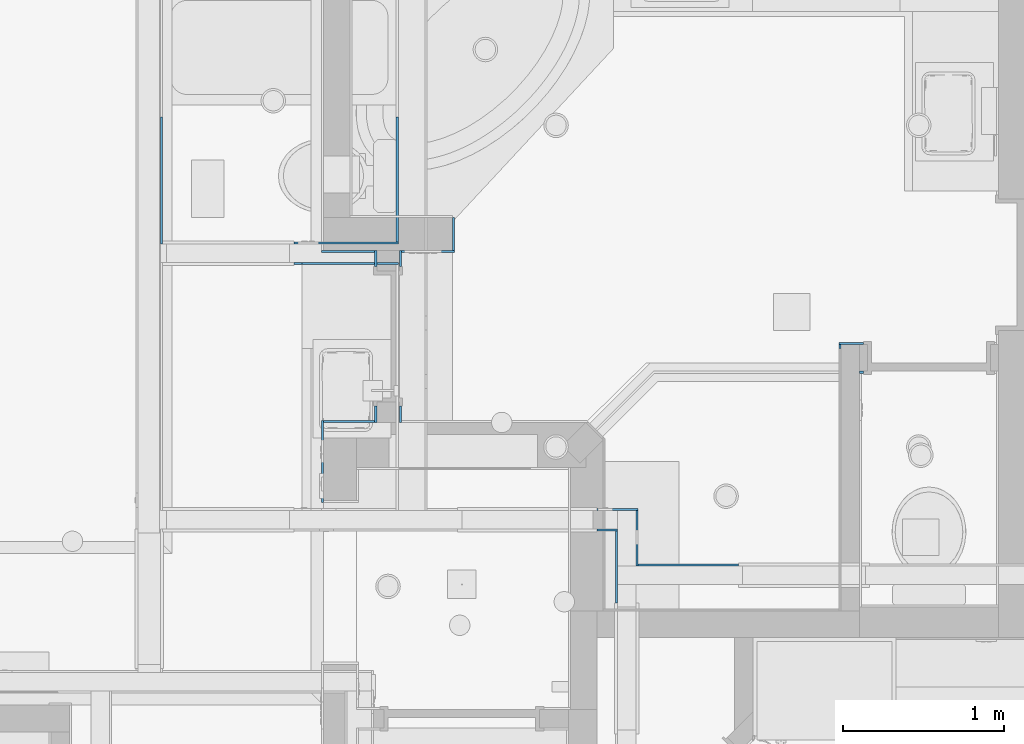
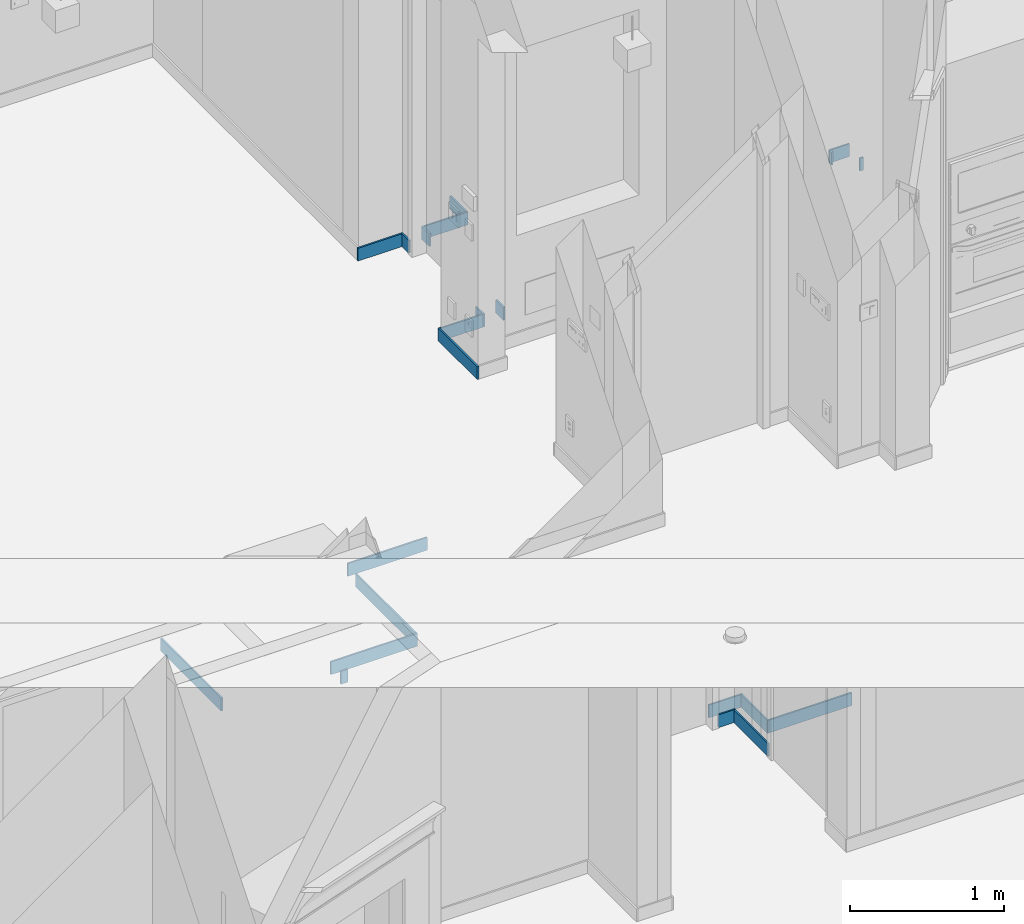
# One storey, part 22 of 60: 22 walls.
"""IFC2X3 building model written with IfcOpenShell, lengths in feet."""

from ifc_helpers import new_model, entity, si_unit, converted_unit, direction, frame, frame_2d, origin, place, context, subcontext, project, spatial, polyline, rectangle, extrude, clip, bounded_halfspace, material, layer, layer_set, layer_usage, type_object, element, save


model = new_model("IFC2X3")

# Units and contexts
model_context = context("Model", 3, precision=0.0001, world=origin(), true_north=direction((6.123031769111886e-17, 1.0)))
plan_context = context("Plan", 3, precision=0.0001, world=origin(), true_north=direction((6.123031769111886e-17, 1.0)))
body_context = subcontext(model_context, "Body", "Model", "MODEL_VIEW")
ifc_project = project(units=[converted_unit("LENGTHUNIT", "FOOT", entity("IfcLengthMeasure", 0.3048), si_unit("LENGTHUNIT", "METRE"), dimensions=[1, 0, 0, 0, 0, 0, 0]), converted_unit("AREAUNIT", "SQUARE FOOT", entity("IfcAreaMeasure", 0.09290304), si_unit("AREAUNIT", "SQUARE_METRE"), dimensions=[2, 0, 0, 0, 0, 0, 0]), converted_unit("PLANEANGLEUNIT", "DEGREE", entity("IfcPlaneAngleMeasure", 0.017453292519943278), si_unit("PLANEANGLEUNIT", "RADIAN"), dimensions=[0, 0, 0, 0, 0, 0, 0])], contexts=[model_context, plan_context])

# Site, building, storey
site_placement = place(None, origin())
site = spatial("IfcSite", under=ifc_project, at=site_placement, Name="Default", CompositionType="ELEMENT")
building_placement = place(site_placement, origin())
building = spatial("IfcBuilding", under=site, at=building_placement, CompositionType="ELEMENT")
storey_placement = place(building_placement, origin())
storey = spatial("IfcBuildingStorey", under=building, at=storey_placement, Name="First floor", CompositionType="ELEMENT", Elevation=0.0)

# Walls
ifc_material = material(Name="Default New Material")
ifc_layer = layer(ifc_material, 0.041666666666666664)
ifc_layer_set = layer_set([ifc_layer], Name="Basic Wall:Wall Border_T1")
ifc_layer_usage_1 = layer_usage(ifc_layer_set, "AXIS2", "POSITIVE", -0.020833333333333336)
wall_type = type_object("IfcWallType", Name="Basic Wall:Wall Border_T1", PredefinedType="STANDARD", material=ifc_layer_set)
wall_1_placement = place(storey_placement, frame((-4.812499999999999, 43.54166666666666, 0.0), z_axis=(0.0, 0.0, 1.0), x_axis=(0.0, -1.0, 0.0)))
element("IfcWallStandardCase", 1, at=wall_1_placement, inside=storey, type_object=wall_type, material=ifc_layer_usage_1, Name="Basic Wall:Wall Border_T1", ObjectType="Basic Wall:Wall Border_T1", context=body_context, shape_type="Clipping", body=[
    clip(extrude(rectangle(XDim=2.5416666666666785, YDim=0.041666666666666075, at=frame_2d((1.2708333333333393, -3.642919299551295e-17), x_axis=(-1.0, 0.0))), origin(), (0.0, 0.0, 1.0), 0.3333333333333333), bounded_halfspace(frame((2.5416666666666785, -0.02083333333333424, 0.3333333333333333), z_axis=(-1.0, 0.0, 0.0), x_axis=(0.0, -1.0, 0.0)), True, frame((2.5416666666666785, -0.02083333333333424, 0.3333333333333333), z_axis=(-1.0, 0.0, 0.0), x_axis=(0.0, -1.0, 0.0)), polyline([(0.0, 0.0), (-0.04166666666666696, 0.0), (-0.04166666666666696, -0.3333333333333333), (0.0, -0.3333333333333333), (0.0, 0.0)]))),
])
ifc_layer_usage_2 = layer_usage(ifc_layer_set, "AXIS2", "POSITIVE", -0.020833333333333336)
wall_2_placement = place(storey_placement, frame((-4.7916666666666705, 40.97916666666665, 0.0), z_axis=(0.0, 0.0, 1.0), x_axis=(-1.0, 0.0, 0.0)))
element("IfcWallStandardCase", 2, at=wall_2_placement, inside=storey, type_object=wall_type, material=ifc_layer_usage_2, Name="Basic Wall:Wall Border_T1", ObjectType="Basic Wall:Wall Border_T1", context=body_context, shape_type="SweptSolid", body=[
    extrude(rectangle(XDim=2.1250000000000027, YDim=0.041666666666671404, at=frame_2d((1.0625000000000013, 0.0), x_axis=(-1.0, 0.0))), origin(), (0.0, 0.0, 1.0), 0.3333333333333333),
])
ifc_layer_usage_3 = layer_usage(ifc_layer_set, "AXIS2", "NEGATIVE", 0.020833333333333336)
wall_3_placement = place(storey_placement, frame((-9.604166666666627, 40.95833333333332, 0.0), z_axis=(0.0, 0.0, 1.0), x_axis=(0.0, 1.0, 0.0)))
element("IfcWallStandardCase", 3, at=wall_3_placement, inside=storey, type_object=wall_type, material=ifc_layer_usage_3, Name="Basic Wall:Wall Border_T1", ObjectType="Basic Wall:Wall Border_T1", context=body_context, shape_type="SweptSolid", body=[
    extrude(rectangle(XDim=2.5833333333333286, YDim=0.04166666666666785, at=frame_2d((1.2916666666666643, 0.0), x_axis=(-1.0, 0.0))), origin(), (0.0, 0.0, 1.0), 0.3333333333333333),
])
ifc_layer_usage_4 = layer_usage(ifc_layer_set, "AXIS2", "POSITIVE", -0.020833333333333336)
wall_4_placement = place(storey_placement, frame((-6.916666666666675, 40.56249999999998, 0.0)))
element("IfcWallStandardCase", 4, at=wall_4_placement, inside=storey, type_object=wall_type, material=ifc_layer_usage_4, Name="Basic Wall:Wall Border_T1", ObjectType="Basic Wall:Wall Border_T1", context=body_context, shape_type="SweptSolid", body=[
    extrude(rectangle(XDim=0.1666666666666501, YDim=0.041666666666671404, at=frame_2d((0.08333333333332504, 0.0), x_axis=(-1.0, 0.0))), origin(), (0.0, 0.0, 1.0), 0.3333333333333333),
])
ifc_layer_usage_5 = layer_usage(ifc_layer_set, "AXIS2", "POSITIVE", -0.020833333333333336)
wall_5_placement = place(storey_placement, frame((2.124999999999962, 34.43749999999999, 0.0), z_axis=(0.0, 0.0, 1.0), x_axis=(-1.0, 0.0, 0.0)))
element("IfcWallStandardCase", 5, at=wall_5_placement, inside=storey, type_object=wall_type, material=ifc_layer_usage_5, Name="Basic Wall:Wall Border_T1", ObjectType="Basic Wall:Wall Border_T1", context=body_context, shape_type="Clipping", body=[
    clip(extrude(rectangle(XDim=2.0416666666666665, YDim=0.041666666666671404, at=frame_2d((1.0208333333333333, -7.112366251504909e-17), x_axis=(-1.0, 0.0))), origin(), (0.0, 0.0, 1.0), 0.3333333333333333), bounded_halfspace(frame((2.041666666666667, -0.020833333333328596, 0.3333333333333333), z_axis=(-1.0, 0.0, 0.0), x_axis=(0.0, -1.0, 0.0)), True, frame((2.041666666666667, -0.020833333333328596, 0.3333333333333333), z_axis=(-1.0, 0.0, 0.0), x_axis=(0.0, -1.0, 0.0)), polyline([(0.0, 0.0), (-0.0416666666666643, 0.0), (-0.0416666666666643, -0.3333333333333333), (0.0, -0.3333333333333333), (0.0, 0.0)]))),
])
ifc_layer_usage_6 = layer_usage(ifc_layer_set, "AXIS2", "POSITIVE", -0.020833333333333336)
wall_6_placement = place(storey_placement, frame((0.06249999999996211, 34.416666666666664, 0.0), z_axis=(0.0, 0.0, 1.0), x_axis=(0.0, 1.0, 0.0)))
element("IfcWallStandardCase", 6, at=wall_6_placement, inside=storey, type_object=wall_type, material=ifc_layer_usage_6, Name="Basic Wall:Wall Border_T1", ObjectType="Basic Wall:Wall Border_T1", context=body_context, shape_type="SweptSolid", body=[
    extrude(rectangle(XDim=1.1249999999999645, YDim=0.04166666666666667, at=frame_2d((0.5624999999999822, 0.0), x_axis=(-1.0, 0.0))), origin(), (0.0, 0.0, 1.0), 0.3333333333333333),
])
ifc_layer_usage_7 = layer_usage(ifc_layer_set, "AXIS2", "POSITIVE", -0.020833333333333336)
wall_7_placement = place(storey_placement, frame((0.08333333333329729, 35.562499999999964, 0.0), z_axis=(0.0, 0.0, 1.0), x_axis=(-1.0, 0.0, 0.0)))
element("IfcWallStandardCase", 7, at=wall_7_placement, inside=storey, type_object=wall_type, material=ifc_layer_usage_7, Name="Basic Wall:Wall Border_T1", ObjectType="Basic Wall:Wall Border_T1", context=body_context, shape_type="SweptSolid", body=[
    extrude(rectangle(XDim=0.8333333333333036, YDim=0.041666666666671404, at=frame_2d((0.4166666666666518, 0.0), x_axis=(-1.0, 0.0))), origin(), (0.0, 0.0, 1.0), 0.3333333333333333),
])
ifc_layer_usage_8 = layer_usage(ifc_layer_set, "AXIS2", "NEGATIVE", 0.020833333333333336)
wall_8_placement = place(storey_placement, frame((-0.7500000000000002, 35.14583333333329, 0.0)))
element("IfcWallStandardCase", 8, at=wall_8_placement, inside=storey, type_object=wall_type, material=ifc_layer_usage_8, Name="Basic Wall:Wall Border_T1", ObjectType="Basic Wall:Wall Border_T1", context=body_context, shape_type="SweptSolid", body=[
    extrude(rectangle(XDim=0.4166666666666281, YDim=0.041666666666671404, at=frame_2d((0.20833333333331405, 0.0), x_axis=(-1.0, 0.0))), origin(), (0.0, 0.0, 1.0), 0.3333333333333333),
])
ifc_layer_usage_9 = layer_usage(ifc_layer_set, "AXIS2", "NEGATIVE", 0.020833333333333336)
wall_9_placement = place(storey_placement, frame((-0.35416666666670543, 35.124999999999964, 0.0), z_axis=(0.0, 0.0, 1.0), x_axis=(0.0, -1.0, 0.0)))
element("IfcWallStandardCase", 9, at=wall_9_placement, inside=storey, type_object=wall_type, material=ifc_layer_usage_9, Name="Basic Wall:Wall Border_T1", ObjectType="Basic Wall:Wall Border_T1", context=body_context, shape_type="SweptSolid", body=[
    extrude(rectangle(XDim=1.4583333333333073, YDim=0.04166666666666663, at=frame_2d((0.7291666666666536, 0.0), x_axis=(-1.0, 0.0))), origin(), (0.0, 0.0, 1.0), 0.3333333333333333),
])
ifc_layer_usage_10 = layer_usage(ifc_layer_set, "AXIS2", "NEGATIVE", 0.020833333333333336)
wall_10_placement = place(storey_placement, frame((-5.249999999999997, 40.49965483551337, 10.666666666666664), z_axis=(0.0, 0.0, 1.0), x_axis=(0.0, 1.0, 0.0)))
element("IfcWallStandardCase", 10, at=wall_10_placement, inside=storey, type_object=wall_type, material=ifc_layer_usage_10, Name="Basic Wall:Wall Border_T1", ObjectType="Basic Wall:Wall Border_T1", context=body_context, shape_type="SweptSolid", body=[
    extrude(rectangle(XDim=0.3333333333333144, YDim=0.041666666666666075, at=frame_2d((0.1666666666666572, 5.898059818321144e-17), x_axis=(-1.0, 0.0))), origin(), (0.0, 0.0, 1.0), 0.3333333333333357),
])
ifc_layer_usage_11 = layer_usage(ifc_layer_set, "AXIS2", "NEGATIVE", 0.020833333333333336)
wall_11_placement = place(storey_placement, frame((-5.270833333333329, 40.812154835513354, 10.666666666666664), z_axis=(0.0, 0.0, 1.0), x_axis=(-1.0, 0.0, 0.0)))
element("IfcWallStandardCase", 11, at=wall_11_placement, inside=storey, type_object=wall_type, material=ifc_layer_usage_11, Name="Basic Wall:Wall Border_T1", ObjectType="Basic Wall:Wall Border_T1", context=body_context, shape_type="SweptSolid", body=[
    extrude(rectangle(XDim=1.0833333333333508, YDim=0.041666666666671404, at=frame_2d((0.5416666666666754, 2.338407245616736e-15), x_axis=(-1.0, 0.0))), origin(), (0.0, 0.0, 1.0), 0.3333333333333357),
])
ifc_layer_usage_12 = layer_usage(ifc_layer_set, "AXIS2", "NEGATIVE", 0.020833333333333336)
wall_12_placement = place(storey_placement, frame((-6.333333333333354, 37.375000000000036, 10.666666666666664), z_axis=(0.0, 0.0, 1.0), x_axis=(0.0, -1.0, 0.0)))
element("IfcWallStandardCase", 12, at=wall_12_placement, inside=storey, type_object=wall_type, material=ifc_layer_usage_12, Name="Basic Wall:Wall Border_T1", ObjectType="Basic Wall:Wall Border_T1", context=body_context, shape_type="SweptSolid", body=[
    extrude(rectangle(XDim=1.6666666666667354, YDim=0.041666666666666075, at=frame_2d((0.8333333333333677, 9.8879238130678e-17), x_axis=(-1.0, 0.0))), origin(), (0.0, 0.0, 1.0), 0.3333333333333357),
])
ifc_layer_usage_13 = layer_usage(ifc_layer_set, "AXIS2", "NEGATIVE", 0.020833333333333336)
wall_13_placement = place(storey_placement, frame((-5.25, 37.66632150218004, 10.666666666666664), z_axis=(0.0, 0.0, 1.0), x_axis=(0.0, -1.0, 0.0)))
element("IfcWallStandardCase", 13, at=wall_13_placement, inside=storey, type_object=wall_type, material=ifc_layer_usage_13, Name="Basic Wall:Wall Border_T1", ObjectType="Basic Wall:Wall Border_T1", context=body_context, shape_type="SweptSolid", body=[
    extrude(rectangle(XDim=0.3329881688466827, YDim=0.041666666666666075, at=frame_2d((0.16649408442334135, 2.949029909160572e-17), x_axis=(-1.0, 0.0))), origin(), (0.0, 0.0, 1.0), 0.3333333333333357),
])
ifc_layer_usage_14 = layer_usage(ifc_layer_set, "AXIS2", "NEGATIVE", 0.020833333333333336)
wall_14_placement = place(storey_placement, frame((-5.270833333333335, 37.35416666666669, 10.666666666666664), z_axis=(0.0, 0.0, 1.0), x_axis=(-1.0, 0.0, 0.0)))
element("IfcWallStandardCase", 14, at=wall_14_placement, inside=storey, type_object=wall_type, material=ifc_layer_usage_14, Name="Basic Wall:Wall Border_T1", ObjectType="Basic Wall:Wall Border_T1", context=body_context, shape_type="SweptSolid", body=[
    extrude(rectangle(XDim=1.0416666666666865, YDim=0.041666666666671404, at=frame_2d((0.5208333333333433, -7.008282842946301e-16), x_axis=(-1.0, 0.0))), origin(), (0.0, 0.0, 1.0), 0.3333333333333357),
])
ifc_layer_usage_15 = layer_usage(ifc_layer_set, "AXIS2", "NEGATIVE", 0.020833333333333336)
wall_15_placement = place(storey_placement, frame((-4.7499999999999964, 40.49965483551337, 10.666666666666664), z_axis=(0.0, 0.0, 1.0), x_axis=(0.0, 1.0, 0.0)))
element("IfcWallStandardCase", 15, at=wall_15_placement, inside=storey, type_object=wall_type, material=ifc_layer_usage_15, Name="Basic Wall:Wall Border_T1", ObjectType="Basic Wall:Wall Border_T1", context=body_context, shape_type="SweptSolid", body=[
    extrude(rectangle(XDim=0.3333333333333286, YDim=0.041666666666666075, at=frame_2d((0.1666666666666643, 0.0), x_axis=(-1.0, 0.0))), origin(), (0.0, 0.0, 1.0), 0.3333333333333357),
])
ifc_layer_usage_16 = layer_usage(ifc_layer_set, "AXIS2", "NEGATIVE", 0.020833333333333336)
wall_16_placement = place(storey_placement, frame((-4.7291666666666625, 40.81215483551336, 10.666666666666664)))
element("IfcWallStandardCase", 16, at=wall_16_placement, inside=storey, type_object=wall_type, material=ifc_layer_usage_16, Name="Basic Wall:Wall Border_T1", ObjectType="Basic Wall:Wall Border_T1", context=body_context, shape_type="SweptSolid", body=[
    extrude(rectangle(XDim=1.0833333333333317, YDim=0.041666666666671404, at=frame_2d((0.5416666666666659, 2.0643209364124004e-16), x_axis=(-1.0, 0.0))), origin(), (0.0, 0.0, 1.0), 0.3333333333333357),
])
ifc_layer_usage_17 = layer_usage(ifc_layer_set, "AXIS2", "NEGATIVE", 0.020833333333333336)
wall_17_placement = place(storey_placement, frame((-3.666666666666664, 40.83298816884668, 10.666666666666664), z_axis=(0.0, 0.0, 1.0), x_axis=(0.0, 1.0, 0.0)))
element("IfcWallStandardCase", 17, at=wall_17_placement, inside=storey, type_object=wall_type, material=ifc_layer_usage_17, Name="Basic Wall:Wall Border_T1", ObjectType="Basic Wall:Wall Border_T1", context=body_context, shape_type="SweptSolid", body=[
    extrude(rectangle(XDim=0.6666666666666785, YDim=0.04166666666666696, at=frame_2d((0.33333333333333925, 2.0816681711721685e-16), x_axis=(-1.0, 0.0))), origin(), (0.0, 0.0, 1.0), 0.3333333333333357),
])
ifc_layer_usage_18 = layer_usage(ifc_layer_set, "AXIS2", "NEGATIVE", 0.020833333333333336)
wall_18_placement = place(storey_placement, frame((-4.750000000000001, 37.66632150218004, 10.666666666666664), z_axis=(0.0, 0.0, 1.0), x_axis=(0.0, -1.0, 0.0)))
element("IfcWallStandardCase", 18, at=wall_18_placement, inside=storey, type_object=wall_type, material=ifc_layer_usage_18, Name="Basic Wall:Wall Border_T1", ObjectType="Basic Wall:Wall Border_T1", context=body_context, shape_type="SweptSolid", body=[
    extrude(rectangle(XDim=0.3329881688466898, YDim=0.041666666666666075, at=frame_2d((0.1664940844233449, 2.949029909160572e-17), x_axis=(-1.0, 0.0))), origin(), (0.0, 0.0, 1.0), 0.3333333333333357),
])
ifc_layer_usage_19 = layer_usage(ifc_layer_set, "AXIS2", "NEGATIVE", 0.020833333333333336)
wall_19_placement = place(storey_placement, frame((4.666666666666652, 38.93715483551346, 10.666666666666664), z_axis=(0.0, 0.0, 1.0), x_axis=(-1.0, 0.0, 0.0)))
element("IfcWallStandardCase", 19, at=wall_19_placement, inside=storey, type_object=wall_type, material=ifc_layer_usage_19, Name="Basic Wall:Wall Border_T1", ObjectType="Basic Wall:Wall Border_T1", context=body_context, shape_type="SweptSolid", body=[
    extrude(rectangle(XDim=0.49999999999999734, YDim=0.041666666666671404, at=frame_2d((0.24999999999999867, 0.0), x_axis=(-1.0, 0.0))), origin(), (0.0, 0.0, 1.0), 0.3333333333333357),
])
ifc_layer_usage_20 = layer_usage(ifc_layer_set, "AXIS2", "NEGATIVE", 0.020833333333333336)
wall_20_placement = place(storey_placement, frame((4.1874999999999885, 38.916321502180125, 10.666666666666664), z_axis=(0.0, 0.0, 1.0), x_axis=(0.0, -1.0, 0.0)))
element("IfcWallStandardCase", 20, at=wall_20_placement, inside=storey, type_object=wall_type, material=ifc_layer_usage_20, Name="Basic Wall:Wall Border_T1", ObjectType="Basic Wall:Wall Border_T1", context=body_context, shape_type="SweptSolid", body=[
    extrude(rectangle(XDim=0.08298816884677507, YDim=0.041666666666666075, at=frame_2d((0.041494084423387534, 6.071532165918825e-17), x_axis=(-1.0, 0.0))), origin(), (0.0, 0.0, 1.0), 0.3333333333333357),
])
ifc_layer_usage_21 = layer_usage(ifc_layer_set, "AXIS2", "NEGATIVE", 0.020833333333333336)
wall_21_placement = place(storey_placement, frame((4.666666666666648, 38.35382150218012, 10.666666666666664), z_axis=(0.0, 0.0, 1.0), x_axis=(-1.0, 0.0, 0.0)))
element("IfcWallStandardCase", 21, at=wall_21_placement, inside=storey, type_object=wall_type, material=ifc_layer_usage_21, Name="Basic Wall:Wall Border_T1", ObjectType="Basic Wall:Wall Border_T1", context=body_context, shape_type="SweptSolid", body=[
    extrude(rectangle(XDim=0.0833333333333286, YDim=0.041666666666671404, at=frame_2d((0.0416666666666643, 0.0), x_axis=(-1.0, 0.0))), origin(), (0.0, 0.0, 1.0), 0.3333333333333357),
])
ifc_layer_usage_22 = layer_usage(ifc_layer_set, "AXIS2", "NEGATIVE", 0.020833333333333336)
wall_22_placement = place(storey_placement, frame((-6.750000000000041, 40.562499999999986, 2.75)))
element("IfcWallStandardCase", 22, at=wall_22_placement, inside=storey, type_object=wall_type, material=ifc_layer_usage_22, Name="Basic Wall:Wall Border_T1", ObjectType="Basic Wall:Wall Border_T1", context=body_context, shape_type="SweptSolid", body=[
    extrude(rectangle(XDim=1.958333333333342, YDim=0.041666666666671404, at=frame_2d((0.979166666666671, -1.5612511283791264e-16), x_axis=(-1.0, 0.0))), origin(), (0.0, 0.0, 1.0), 0.3333333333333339),
])

save(model, "model.ifc")
